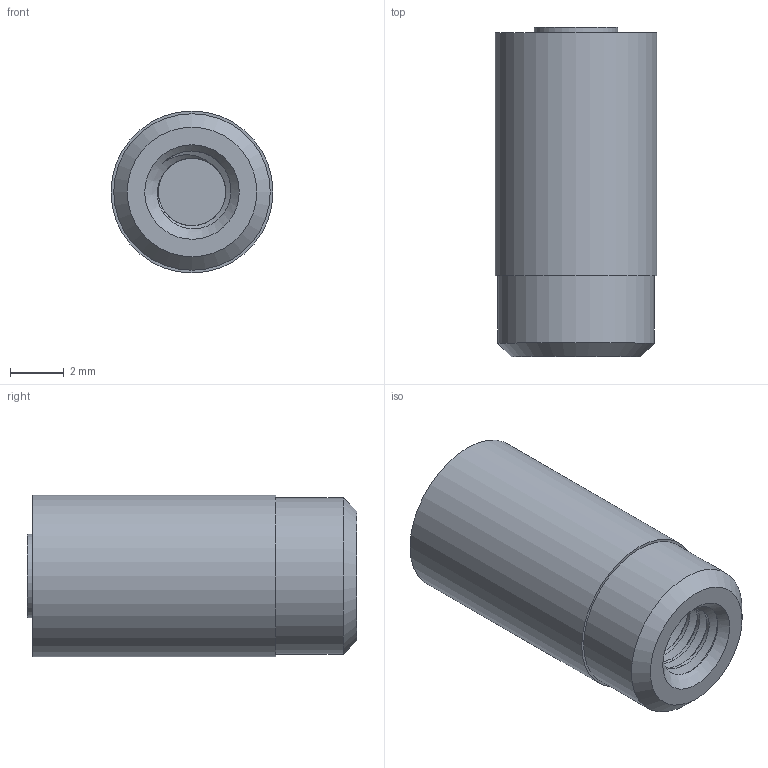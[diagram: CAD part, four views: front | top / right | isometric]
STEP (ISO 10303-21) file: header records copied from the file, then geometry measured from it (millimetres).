
FILE_DESCRIPTION (( 'STEP AP214' ), '1' );
FILE_NAME ('DKH-6.STEP', '2018-10-09T18:01:15', ( '' ), ( '' ), 'SwSTEP 2.0', 'SolidWorks 2017', '' );
FILE_SCHEMA (( 'AUTOMOTIVE_DESIGN' ));
Length unit declared in the file: millimetre
Products named in the file (1): DKH-6
Bounding box: 6 x 12.2 x 6 mm (x, y, z)
Volume: 309 mm3; surface area: 327.8 mm2
Topology: 1 solids, 1 shells, 87 faces, 225 edges, 150 vertices
Faces by surface type: plane 44, cylinder 38, bspline 3, cone 2
Full cylindrical faces by diameter (mm): 2.5 x5, 3.1 x1, 5.8 x1, 6 x1
Entity records: 3724 total; most frequent: CARTESIAN_POINT 1808, ORIENTED_EDGE 402, DIRECTION 291, EDGE_CURVE 201, VERTEX_POINT 137, VECTOR 111, LINE 111, EDGE_LOOP 98
